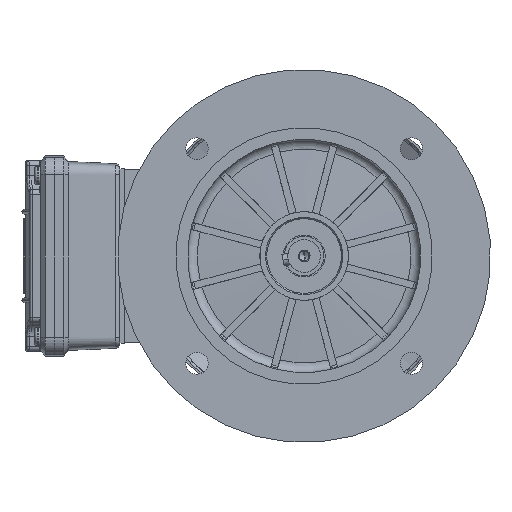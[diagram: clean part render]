
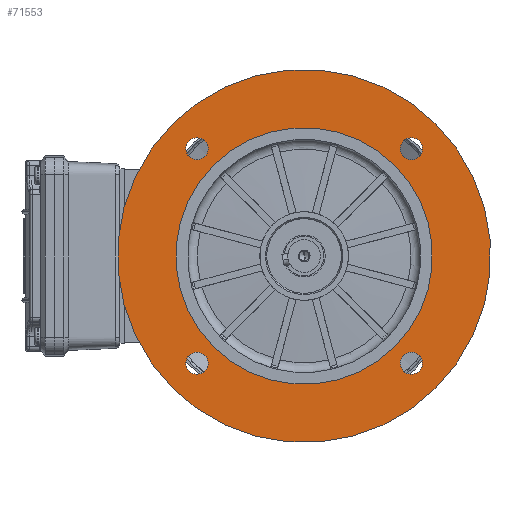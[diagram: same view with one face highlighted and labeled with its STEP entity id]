
A CAD part, left-side view. The second image highlights one B-rep face of the part: STEP entity #71553.
In plain terms, the highlighted planar face has unit normal (-1, 0, 0) as drawn and (0, -1, 0) by its records, which use the part's own axes.
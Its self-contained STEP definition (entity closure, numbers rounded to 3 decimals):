
#596 = CARTESIAN_POINT ( 'NONE',  ( 0., 3.5, -60.25 ) ) ;
#672 = DIRECTION ( 'NONE',  ( 0., 0., -1. ) ) ;
#4917 = VERTEX_POINT ( 'NONE', #102387 ) ;
#4975 = CIRCLE ( 'NONE', #71095, 4.75 ) ;
#6067 = CIRCLE ( 'NONE', #69206, 55. ) ;
#6121 = DIRECTION ( 'NONE',  ( 0., -1., 0. ) ) ;
#6167 = CIRCLE ( 'NONE', #71444, 4.75 ) ;
#7095 = EDGE_CURVE ( 'NONE', #31047, #85299, #65552, .T. ) ;
#8005 = EDGE_CURVE ( 'NONE', #49647, #70564, #66670, .T. ) ;
#9715 = CARTESIAN_POINT ( 'NONE',  ( 0., 3.5, -55. ) ) ;
#12672 = CARTESIAN_POINT ( 'NONE',  ( -65., 3.5, 0. ) ) ;
#13939 = AXIS2_PLACEMENT_3D ( 'NONE', #85098, #37094, #93103 ) ;
#15943 = AXIS2_PLACEMENT_3D ( 'NONE', #39249, #95307, #47334 ) ;
#16194 = VERTEX_POINT ( 'NONE', #96371 ) ;
#16820 = DIRECTION ( 'NONE',  ( 0., -1., 0. ) ) ;
#16858 = VERTEX_POINT ( 'NONE', #596 ) ;
#17109 = ORIENTED_EDGE ( 'NONE', *, *, #62965, .T. ) ;
#17261 = ORIENTED_EDGE ( 'NONE', *, *, #74383, .T. ) ;
#17601 = CIRCLE ( 'NONE', #73298, 4.75 ) ;
#19598 = FACE_BOUND ( 'NONE', #28979, .T. ) ;
#20699 = DIRECTION ( 'NONE',  ( 0., 0., -1. ) ) ;
#21754 = CARTESIAN_POINT ( 'NONE',  ( -65., 3.5, 0. ) ) ;
#22084 = FACE_BOUND ( 'NONE', #30605, .T. ) ;
#22929 = ORIENTED_EDGE ( 'NONE', *, *, #74640, .T. ) ;
#23321 = DIRECTION ( 'NONE',  ( 0., 1., 0. ) ) ;
#24861 = ORIENTED_EDGE ( 'NONE', *, *, #74916, .T. ) ;
#25514 = CIRCLE ( 'NONE', #96359, 4.75 ) ;
#28176 = CARTESIAN_POINT ( 'NONE',  ( 55., 3.5, 0. ) ) ;
#28979 = EDGE_LOOP ( 'NONE', ( #42808, #57081 ) ) ;
#29356 = ORIENTED_EDGE ( 'NONE', *, *, #7095, .T. ) ;
#29763 = DIRECTION ( 'NONE',  ( 0., 0., -1. ) ) ;
#30605 = EDGE_LOOP ( 'NONE', ( #76981, #84103 ) ) ;
#30614 = EDGE_CURVE ( 'NONE', #84667, #47647, #61268, .T. ) ;
#31047 = VERTEX_POINT ( 'NONE', #94800 ) ;
#31589 = ORIENTED_EDGE ( 'NONE', *, *, #8005, .T. ) ;
#31657 = CIRCLE ( 'NONE', #94344, 4.75 ) ;
#31761 = DIRECTION ( 'NONE',  ( 0., 1., 0. ) ) ;
#32262 = CARTESIAN_POINT ( 'NONE',  ( 65., 3.5, -4.75 ) ) ;
#32948 = EDGE_LOOP ( 'NONE', ( #17261, #67321 ) ) ;
#34978 = CARTESIAN_POINT ( 'NONE',  ( 0., 3.5, 65. ) ) ;
#35504 = EDGE_CURVE ( 'NONE', #85299, #31047, #98763, .T. ) ;
#36203 = DIRECTION ( 'NONE',  ( 0., 0., -1. ) ) ;
#36698 = AXIS2_PLACEMENT_3D ( 'NONE', #96542, #48572, #672 ) ;
#37094 = DIRECTION ( 'NONE',  ( 0., 1., 0. ) ) ;
#38327 = AXIS2_PLACEMENT_3D ( 'NONE', #21754, #77724, #29763 ) ;
#39249 = CARTESIAN_POINT ( 'NONE',  ( 0., 3.5, -65. ) ) ;
#40232 = DIRECTION ( 'NONE',  ( 0., 1., 0. ) ) ;
#40677 = DIRECTION ( 'NONE',  ( 0., -1., 0. ) ) ;
#40766 = FACE_OUTER_BOUND ( 'NONE', #62236, .T. ) ;
#40767 = CARTESIAN_POINT ( 'NONE',  ( -65., 3.5, 4.75 ) ) ;
#42808 = ORIENTED_EDGE ( 'NONE', *, *, #48441, .F. ) ;
#43052 = DIRECTION ( 'NONE',  ( 0., 0., -1. ) ) ;
#43304 = FACE_BOUND ( 'NONE', #32948, .T. ) ;
#47334 = DIRECTION ( 'NONE',  ( 0., 0., -1. ) ) ;
#47647 = VERTEX_POINT ( 'NONE', #9715 ) ;
#47936 = EDGE_LOOP ( 'NONE', ( #22929, #24861 ) ) ;
#48441 = EDGE_CURVE ( 'NONE', #47647, #84667, #6067, .T. ) ;
#48572 = DIRECTION ( 'NONE',  ( 0., -1., 0. ) ) ;
#49647 = VERTEX_POINT ( 'NONE', #40767 ) ;
#52663 = EDGE_CURVE ( 'NONE', #16194, #16858, #6167, .T. ) ;
#53985 = CARTESIAN_POINT ( 'NONE',  ( 0., 3.5, 0. ) ) ;
#57081 = ORIENTED_EDGE ( 'NONE', *, *, #30614, .F. ) ;
#58888 = CARTESIAN_POINT ( 'NONE',  ( 0., 3.5, 55. ) ) ;
#60585 = CARTESIAN_POINT ( 'NONE',  ( 0., 3.5, 69.75 ) ) ;
#61268 = CIRCLE ( 'NONE', #85378, 55. ) ;
#62044 = DIRECTION ( 'NONE',  ( 0., 0., -1. ) ) ;
#62089 = FACE_BOUND ( 'NONE', #100486, .T. ) ;
#62236 = EDGE_LOOP ( 'NONE', ( #88340, #29356 ) ) ;
#62610 = AXIS2_PLACEMENT_3D ( 'NONE', #28176, #84205, #36203 ) ;
#62965 = EDGE_CURVE ( 'NONE', #70564, #49647, #17601, .T. ) ;
#64652 = CARTESIAN_POINT ( 'NONE',  ( 0., 3.5, 0. ) ) ;
#65552 = CIRCLE ( 'NONE', #83922, 80. ) ;
#66670 = CIRCLE ( 'NONE', #38327, 4.75 ) ;
#67321 = ORIENTED_EDGE ( 'NONE', *, *, #52663, .T. ) ;
#68558 = DIRECTION ( 'NONE',  ( 0., 1., 0. ) ) ;
#69206 = AXIS2_PLACEMENT_3D ( 'NONE', #53985, #6121, #62044 ) ;
#70564 = VERTEX_POINT ( 'NONE', #103746 ) ;
#70947 = CARTESIAN_POINT ( 'NONE',  ( 0., 3.5, -80. ) ) ;
#71095 = AXIS2_PLACEMENT_3D ( 'NONE', #88257, #40232, #96314 ) ;
#71179 = CARTESIAN_POINT ( 'NONE',  ( 0., 3.5, -65. ) ) ;
#71444 = AXIS2_PLACEMENT_3D ( 'NONE', #71179, #23321, #79315 ) ;
#71553 = ADVANCED_FACE ( 'NONE', ( #22084, #43304, #83427, #62089, #40766, #19598 ), #99935, .T. ) ;
#72678 = DIRECTION ( 'NONE',  ( 0., 0., -1. ) ) ;
#73298 = AXIS2_PLACEMENT_3D ( 'NONE', #12672, #68558, #20699 ) ;
#74383 = EDGE_CURVE ( 'NONE', #16858, #16194, #102987, .T. ) ;
#74589 = EDGE_CURVE ( 'NONE', #4917, #100707, #25514, .T. ) ;
#74640 = EDGE_CURVE ( 'NONE', #94427, #100402, #84350, .T. ) ;
#74916 = EDGE_CURVE ( 'NONE', #100402, #94427, #31657, .T. ) ;
#76981 = ORIENTED_EDGE ( 'NONE', *, *, #96146, .T. ) ;
#77724 = DIRECTION ( 'NONE',  ( 0., 1., 0. ) ) ;
#79315 = DIRECTION ( 'NONE',  ( 0., 0., -1. ) ) ;
#79771 = CARTESIAN_POINT ( 'NONE',  ( 65., 3.5, 0. ) ) ;
#83427 = FACE_BOUND ( 'NONE', #47936, .T. ) ;
#83922 = AXIS2_PLACEMENT_3D ( 'NONE', #88685, #40677, #96752 ) ;
#84103 = ORIENTED_EDGE ( 'NONE', *, *, #74589, .T. ) ;
#84205 = DIRECTION ( 'NONE',  ( 0., -1., 0. ) ) ;
#84350 = CIRCLE ( 'NONE', #13939, 4.75 ) ;
#84667 = VERTEX_POINT ( 'NONE', #58888 ) ;
#85098 = CARTESIAN_POINT ( 'NONE',  ( 65., 3.5, 0. ) ) ;
#85299 = VERTEX_POINT ( 'NONE', #70947 ) ;
#85378 = AXIS2_PLACEMENT_3D ( 'NONE', #64652, #16820, #72678 ) ;
#87823 = DIRECTION ( 'NONE',  ( 0., 0., -1. ) ) ;
#88257 = CARTESIAN_POINT ( 'NONE',  ( 0., 3.5, 65. ) ) ;
#88340 = ORIENTED_EDGE ( 'NONE', *, *, #35504, .T. ) ;
#88685 = CARTESIAN_POINT ( 'NONE',  ( 0., 3.5, 0. ) ) ;
#91038 = DIRECTION ( 'NONE',  ( 0., 1., 0. ) ) ;
#93103 = DIRECTION ( 'NONE',  ( 0., 0., -1. ) ) ;
#94344 = AXIS2_PLACEMENT_3D ( 'NONE', #79771, #31761, #87823 ) ;
#94427 = VERTEX_POINT ( 'NONE', #100838 ) ;
#94800 = CARTESIAN_POINT ( 'NONE',  ( 0., 3.5, 80. ) ) ;
#95307 = DIRECTION ( 'NONE',  ( 0., 1., 0. ) ) ;
#96146 = EDGE_CURVE ( 'NONE', #100707, #4917, #4975, .T. ) ;
#96314 = DIRECTION ( 'NONE',  ( 0., 0., -1. ) ) ;
#96359 = AXIS2_PLACEMENT_3D ( 'NONE', #34978, #91038, #43052 ) ;
#96371 = CARTESIAN_POINT ( 'NONE',  ( 0., 3.5, -69.75 ) ) ;
#96542 = CARTESIAN_POINT ( 'NONE',  ( 0., 3.5, 0. ) ) ;
#96752 = DIRECTION ( 'NONE',  ( 0., 0., -1. ) ) ;
#98763 = CIRCLE ( 'NONE', #36698, 80. ) ;
#99935 = PLANE ( 'NONE',  #62610 ) ;
#100402 = VERTEX_POINT ( 'NONE', #32262 ) ;
#100486 = EDGE_LOOP ( 'NONE', ( #31589, #17109 ) ) ;
#100707 = VERTEX_POINT ( 'NONE', #60585 ) ;
#100838 = CARTESIAN_POINT ( 'NONE',  ( 65., 3.5, 4.75 ) ) ;
#102387 = CARTESIAN_POINT ( 'NONE',  ( 0., 3.5, 60.25 ) ) ;
#102987 = CIRCLE ( 'NONE', #15943, 4.75 ) ;
#103746 = CARTESIAN_POINT ( 'NONE',  ( -65., 3.5, -4.75 ) ) ;
